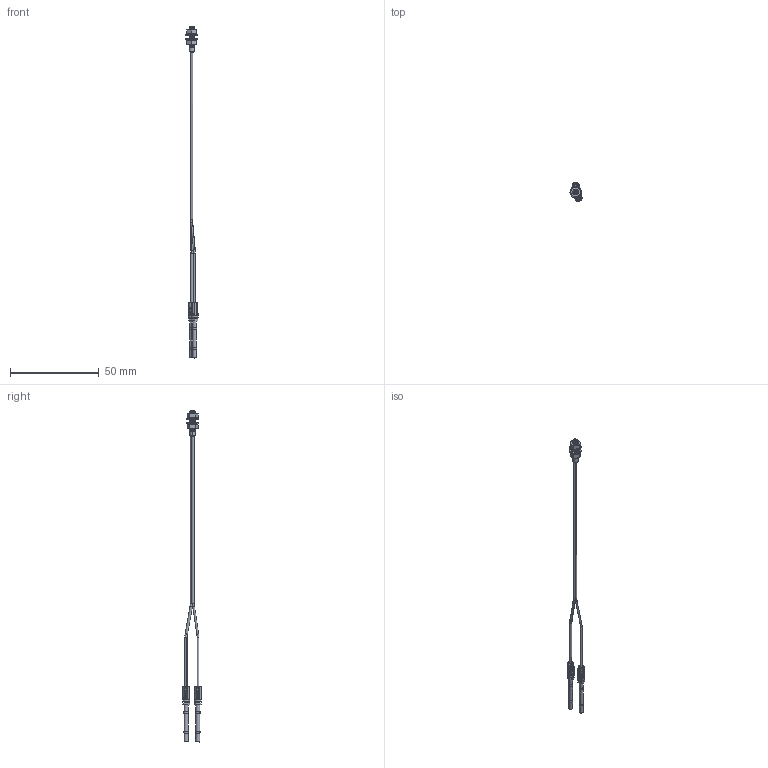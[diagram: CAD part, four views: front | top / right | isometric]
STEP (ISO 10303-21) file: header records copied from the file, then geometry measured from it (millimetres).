
FILE_DESCRIPTION (( 'STEP AP214' ), '1' );
FILE_NAME ('FD-320-F1.STEP', '2019-06-18T02:34:09', ( '' ), ( '' ), 'SwSTEP 2.0', 'SolidWorks 2018', '' );
FILE_SCHEMA (( 'AUTOMOTIVE_DESIGN' ));
Length unit declared in the file: millimetre
Products named in the file (1): FD-320-F1
Bounding box: 6.84 x 10.7 x 187.01 mm (x, y, z)
Volume: 857.6 mm3; surface area: 2607.7 mm2
Topology: 7 solids, 7 shells, 410 faces, 1022 edges, 648 vertices
Faces by surface type: plane 175, cylinder 161, cone 45, torus 20, bspline 9
Entity records: 19061 total; most frequent: CARTESIAN_POINT 8762, ORIENTED_EDGE 2044, DIRECTION 1886, EDGE_CURVE 1022, AXIS2_PLACEMENT_3D 757, VERTEX_POINT 648, EDGE_LOOP 444, ADVANCED_FACE 410
